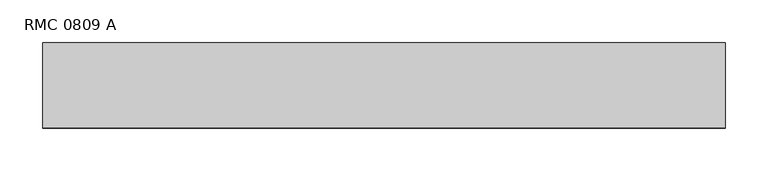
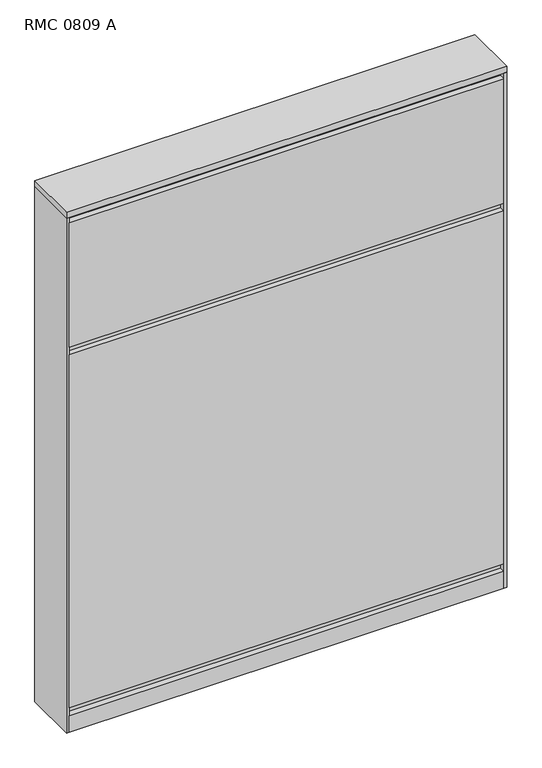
"""IFC4 building model written with IfcOpenShell, lengths in millimetres: furniture geometry, Mobiliário_MobiliáriodeEscritório_LinhaReasons_PainelCego1000mm-Melamina_Marelli : RMC 0809 A."""

from ifc_helpers import new_model, si_unit, frame, origin, origin_with_axes, place, context, project, spatial, polyline, outline, extrude, source, transform, mapped, element, save


def rmc_0809_a_63fcd4b5(model_context):
    return source(origin(), model_context, "Body", "SweptSolid", [
        extrude(outline(polyline([(795.0, 100.0), (800.0, 100.0), (800.0, 0.0), (795.0, 0.0), (795.0, 100.0)])), origin_with_axes(), (0.0, 0.0, 1.0), 989.0),
        extrude(outline(polyline([(800.0, 100.0), (800.0, 0.0), (0.0, 0.0), (0.0, 100.0), (800.0, 100.0)])), frame((0.0, 0.0, 989.0), z_axis=(0.0, 0.0, 1.0), x_axis=(1.0, 0.0, 0.0)), (0.0, 0.0, 1.0), 11.0),
        extrude(outline(polyline([(5.0, 11.0), (5.0, 89.0), (795.0, 89.0), (795.0, 11.0), (5.0, 11.0)])), origin_with_axes(), (0.0, 0.0, 1.0), 989.0),
        extrude(outline(polyline([(795.0, 100.0), (795.0, 89.0), (5.0, 89.0), (5.0, 100.0), (795.0, 100.0)])), origin_with_axes(), (0.0, 0.0, 1.0), 32.0),
        extrude(outline(polyline([(795.0, 11.0), (795.0, 0.0), (5.0, 0.0), (5.0, 11.0), (795.0, 11.0)])), origin_with_axes(), (0.0, 0.0, 1.0), 32.0),
        extrude(outline(polyline([(795.0, 11.0), (795.0, 0.0), (5.0, 0.0), (5.0, 11.0), (795.0, 11.0)])), frame((0.0, 0.0, 47.0), z_axis=(0.0, 0.0, 1.0), x_axis=(1.0, 0.0, 0.0)), (0.0, 0.0, 1.0), 677.3),
        extrude(outline(polyline([(795.0, 11.0), (795.0, 0.0), (5.0, 0.0), (5.0, 11.0), (795.0, 11.0)])), frame((0.0, 0.0, 739.3), z_axis=(0.0, 0.0, 1.0), x_axis=(1.0, 0.0, 0.0)), (0.0, 0.0, 1.0), 239.2),
        extrude(outline(polyline([(795.0, 100.0), (795.0, 89.0), (5.0, 89.0), (5.0, 100.0), (795.0, 100.0)])), frame((0.0, 0.0, 47.0), z_axis=(0.0, 0.0, 1.0), x_axis=(1.0, 0.0, 0.0)), (0.0, 0.0, 1.0), 652.3),
        extrude(outline(polyline([(795.0, 100.0), (795.0, 89.0), (5.0, 89.0), (5.0, 100.0), (795.0, 100.0)])), frame((0.0, 0.0, 739.3), z_axis=(0.0, 0.0, 1.0), x_axis=(1.0, 0.0, 0.0)), (0.0, 0.0, 1.0), 239.2),
        extrude(outline(polyline([(0.0, 100.0), (5.0, 100.0), (5.0, 0.0), (0.0, 0.0), (0.0, 100.0)])), origin_with_axes(), (0.0, 0.0, 1.0), 989.0),
    ])


if __name__ == "__main__":
    model = new_model("IFC4")
    model_context = context("Model", 3, world=origin())
    ifc_project = project(units=[si_unit("LENGTHUNIT", "METRE", prefix="MILLI")], contexts=[model_context])
    site = spatial("IfcSite", under=ifc_project)
    building = spatial("IfcBuilding", under=site)
    placement = place(None, origin())
    rmc_0809_a_shape = rmc_0809_a_63fcd4b5(model_context)
    element("IfcFurniture", 1, ObjectType="Mobiliário_MobiliáriodeEscritório_LinhaReasons_PainelCego1000mm-Melamina_Marelli : RMC 0809 A", at=placement, inside=building, context=model_context, shape_type="MappedRepresentation", body=[
        mapped(rmc_0809_a_shape, transform((0.0, 0.0, 0.0), x_axis=(1.0, 0.0, 0.0), y_axis=(0.0, 1.0, 0.0), z_axis=(0.0, 0.0, 1.0))),
    ])
    save(model, "model.ifc")
